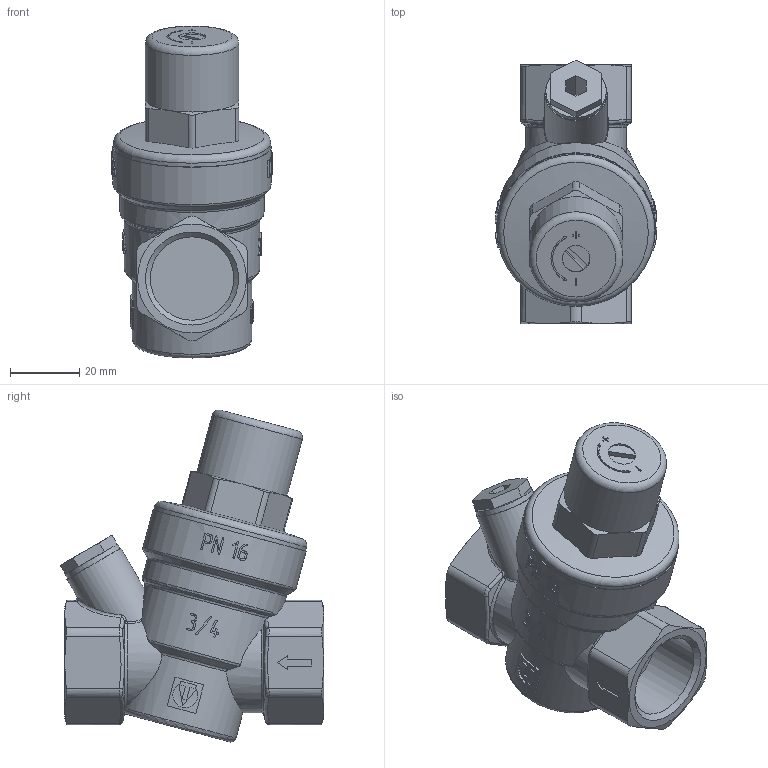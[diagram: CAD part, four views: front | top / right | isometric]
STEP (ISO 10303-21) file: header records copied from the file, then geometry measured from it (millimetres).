
FILE_DESCRIPTION(('STEP AP203'), '1');
FILE_NAME('VT.089.N.05 Ðåäóêòîð äàâëåíèÿ ìåìáðàííûé ðåãóëèðóåìûé DN20', '2023-06-23T11:36:37', ('IT'), ('VESTA'), 'C3D Converter', 'C3D Toolkit', '');
FILE_SCHEMA(('CONFIG_CONTROL_DESIGN'));
Length unit declared in the file: millimetre
Bounding box: 46.84 x 76.25 x 96.06 mm (x, y, z)
Volume: 118244.2 mm3; surface area: 21668.8 mm2
Topology: 1 solids, 1 shells, 643 faces, 1767 edges, 1161 vertices
Faces by surface type: extrusion 269, plane 248, cylinder 60, bspline 33, cone 19, torus 14
Full cylindrical faces by diameter (mm): 8 x1, 17.5 x1, 18 x1, 24.118 x2, 27 x1, 41.7 x1, 45.5 x1, 45.9 x1
Entity records: 39241 total; most frequent: CARTESIAN_POINT 19519, ORIENTED_EDGE 3492, DIRECTION 2032, EDGE_CURVE 1746, VERTEX_POINT 1161, VECTOR 1002, B_SPLINE_CURVE_WITH_KNOTS 1001, LINE 733
